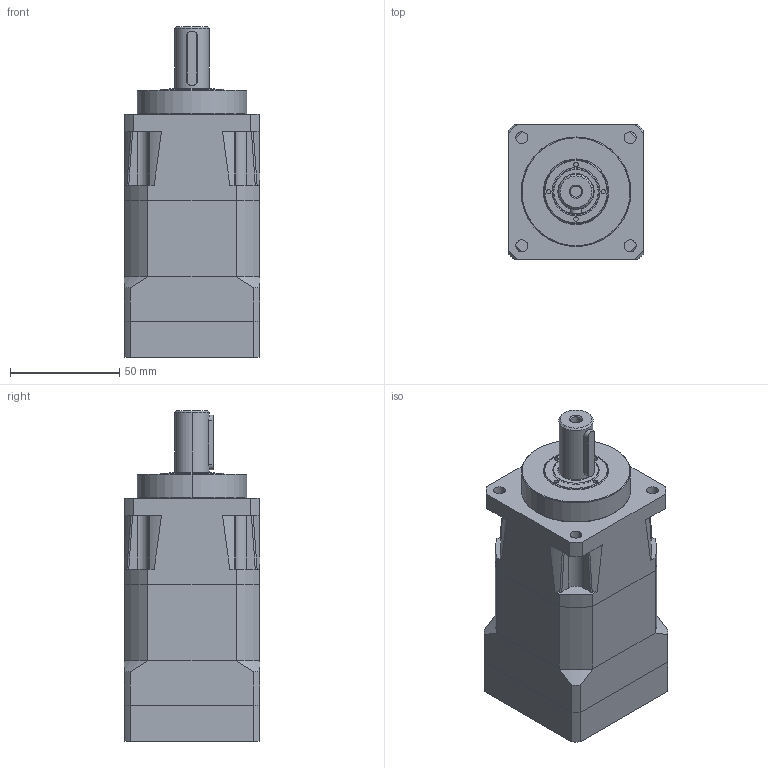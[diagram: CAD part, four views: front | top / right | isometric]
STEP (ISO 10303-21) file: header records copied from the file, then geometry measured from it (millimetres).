
FILE_DESCRIPTION((''),'2;1');
FILE_NAME('PS60-XXX-000-X2_ASM','2009-03-30T',('ata7311'),(''),'PRO/ENGINEER BY PARAMETRIC TECHNOLOGY CORPORATION, 2006300','PRO/ENGINEER BY PARAMETRIC TECHNOLOGY CORPORATION, 2006300','');
FILE_SCHEMA(('CONFIG_CONTROL_DESIGN'));
Products named in the file (15): 13388XXX; 13393000; HD202-0006; 10087128; 13386XXX_ASM; 13393001; 13394000; 13389XXX; 12292000; 13120000; M5X20; 13384XXX_ASM; 13132001; M4X20; PS60-XXX-000-X2_ASM
Assembly tree (18 placements, depth 3):
  PS60-XXX-000-X2_ASM
    13386XXX_ASM
      13388XXX
      13393000
      HD202-0006
      10087128
    13393001
    13384XXX_ASM
      13394000
      13389XXX
      12292000  x2
      13120000
      M5X20
    13132001
    M4X20  x4
Bounding box: 62 x 62 x 151.3 mm (x, y, z)
Volume: 230902.3 mm3; surface area: 89951.8 mm2
Topology: 16 solids, 16 shells, 441 faces, 1041 edges, 680 vertices
Faces by surface type: cylinder 187, plane 186, cone 50, torus 10, bspline 8
Entity records: 11986 total; most frequent: CARTESIAN_POINT 2707, DIRECTION 2009, ORIENTED_EDGE 1782, EDGE_CURVE 891, AXIS2_PLACEMENT_3D 801, VERTEX_POINT 582, EDGE_LOOP 445, VECTOR 407
